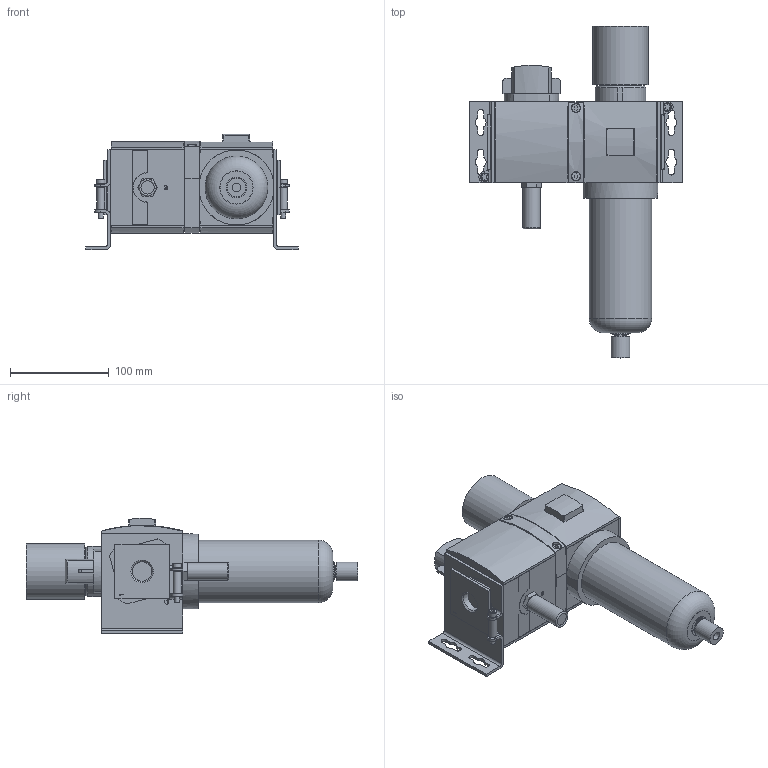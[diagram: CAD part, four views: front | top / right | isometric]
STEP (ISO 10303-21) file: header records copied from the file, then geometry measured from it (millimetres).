
FILE_DESCRIPTION( ( 'STEP AP214' ), '1' );
FILE_NAME( 'p:/temp/worker_271/temp/exporttempdir_1188_1526_Me32g/format_0/08412020-130230_gen_15316.stp', '2020-02-08T12:41:31', ( '' ), ( '' ), ' ', 'PARTsolutions', ' ' );
FILE_SCHEMA( ( 'AUTOMOTIVE_DESIGN { 1 0 10303 214 1 1 1 1 }' ) );
Length unit declared in the file: millimetre
Products named in the file (16): 08412020-130230_gen_15316; _440562-004-004-F(L); _439489-001-0; _437742 KNOB-100_653; _653-M3MN; _440561-004-004-F(L); _G653ASLA0A00A00_LS; _439488-010-F(L); _653-438047-009; _439489-002-H; _503493-001; _510722-001-STANDARD_653; _507439-006-P; _653-440512-002; _8653ASLB0L00A00_LS; _8653ASLB0L00A00_RS
Assembly tree (17 placements, depth 2):
  08412020-130230_gen_15316
    _440562-004-004-F(L)
    _439489-001-0  x3
    _437742 KNOB-100_653
    _653-M3MN
    _440561-004-004-F(L)
    _G653ASLA0A00A00_LS
    _439488-010-F(L)
    _653-438047-009
    _439489-002-H
    _503493-001
    _510722-001-STANDARD_653
    _507439-006-P
    _653-440512-002
    _8653ASLB0L00A00_LS
    _8653ASLB0L00A00_RS
Bounding box: 214.98 x 335.95 x 116.41 mm (x, y, z)
Volume: 1999868.1 mm3; surface area: 301998.9 mm2
Topology: 17 solids, 17 shells, 1048 faces, 2591 edges, 1662 vertices
Faces by surface type: plane 660, cylinder 292, cone 69, torus 23, sphere 4
Full cylindrical faces by diameter (mm): 1.7 x2, 2.8 x2, 5 x8, 5.85 x4, 6.3 x4, 8 x2, 8.5 x4, 8.6 x1, 10 x4, 10.4 x1, 10.8 x4, 12 x4, 12.309 x1, 12.985 x1, 15.1 x1, 16.105 x1, 17.3 x1, 19 x1, 21.6 x1, 29.5 x1, 33.5 x1, 43 x1, 51 x1, 55.99 x1, 63.5 x1
Entity records: 38776 total; most frequent: CARTESIAN_POINT 5644, DIRECTION 5235, ORIENTED_EDGE 4840, EDGE_CURVE 2420, AXIS2_PLACEMENT_3D 1821, VERTEX_POINT 1627, LINE 1593, VECTOR 1593
